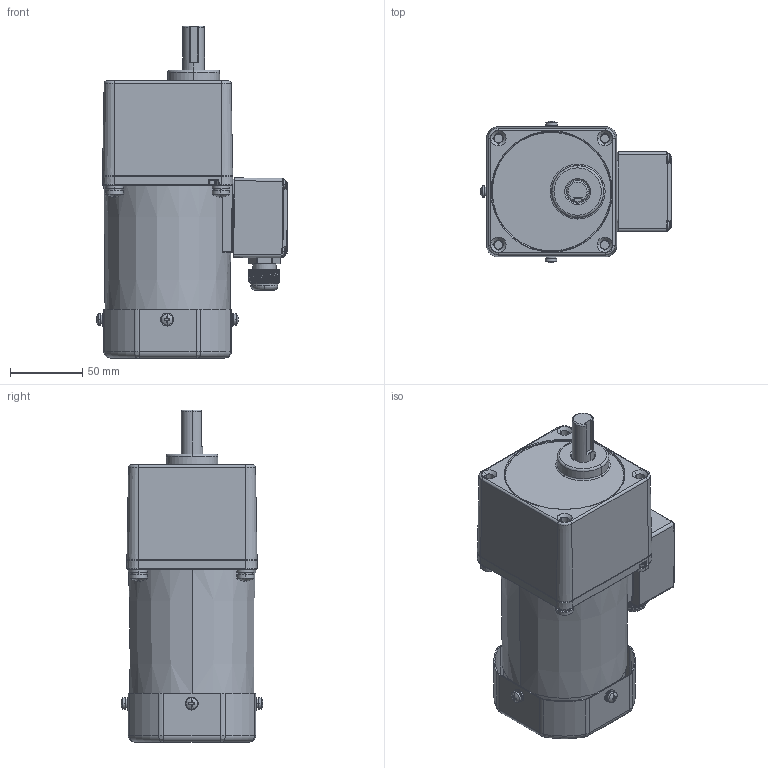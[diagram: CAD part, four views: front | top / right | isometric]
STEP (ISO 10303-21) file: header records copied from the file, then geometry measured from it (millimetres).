
FILE_DESCRIPTION (( 'STEP AP203' ), '1' );
FILE_NAME ('5IK60GU-CFT(5GU3KB-200KB).STEP', '2020-04-09T05:40:20', ( 'Windows 蚚誧' ), ( '' ), 'SwSTEP 2.0', 'SolidWorks 2019', '' );
FILE_SCHEMA (( 'CONFIG_CONTROL_DESIGN' ));
Length unit declared in the file: millimetre
Products named in the file (14): PRT0002^3IK15GN-CT(3GN3K-200K）(2)_JXH-1; 5IK40A-CFT; PRT0003^3IK15GN-CT(3GN3K-200K）(2)_JXH-1; 5GU3KB-200KB; PRT0004^3IK15GN-CT(3GN3K-200K）(2)_JXH-1; 5IK60GU-CFT(5GU3KB-200KB); 9040TSJXHJK; 3IK15GN-CT(3GN3K-200K）(2)^JXH-1; 4IK25GN-CT_8^3IK15GN-CT(3GN3K-200K）(2)_JXH-1; JXH-1; SJQ^3IK15GN-CT(3GN3K-200K）(2)_JXH-1; 5IK40A-CT; M3^3IK15GN-CT(3GN3K-200K）(2)_JXH-1; 90FZ
Assembly tree (13 placements, depth 6):
  5IK60GU-CFT(5GU3KB-200KB)
    5IK40A-CFT
      5IK40A-CT
        9040TSJXHJK
        JXH-1
          3IK15GN-CT(3GN3K-200K）(2)^JXH-1
            4IK25GN-CT_8^3IK15GN-CT(3GN3K-200K）(2)_JXH-1
            SJQ^3IK15GN-CT(3GN3K-200K）(2)_JXH-1
            M3^3IK15GN-CT(3GN3K-200K）(2)_JXH-1
            PRT0002^3IK15GN-CT(3GN3K-200K）(2)_JXH-1
            PRT0003^3IK15GN-CT(3GN3K-200K）(2)_JXH-1
            PRT0004^3IK15GN-CT(3GN3K-200K）(2)_JXH-1
      90FZ
    5GU3KB-200KB
Bounding box: 132.2 x 98.11 x 229.5 mm (x, y, z)
Volume: 794340 mm3; surface area: 190926.7 mm2
Topology: 36 solids, 37 shells, 1902 faces, 4896 edges, 3083 vertices
Faces by surface type: cylinder 711, plane 494, cone 414, torus 161, bspline 64, sphere 58
Entity records: 65932 total; most frequent: CARTESIAN_POINT 17607, DIRECTION 10468, ORIENTED_EDGE 9692, EDGE_CURVE 4846, AXIS2_PLACEMENT_3D 4331, VERTEX_POINT 3075, CIRCLE 2473, EDGE_LOOP 2027
